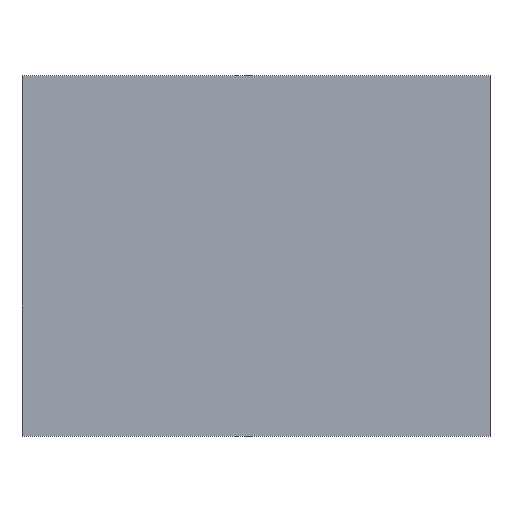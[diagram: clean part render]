
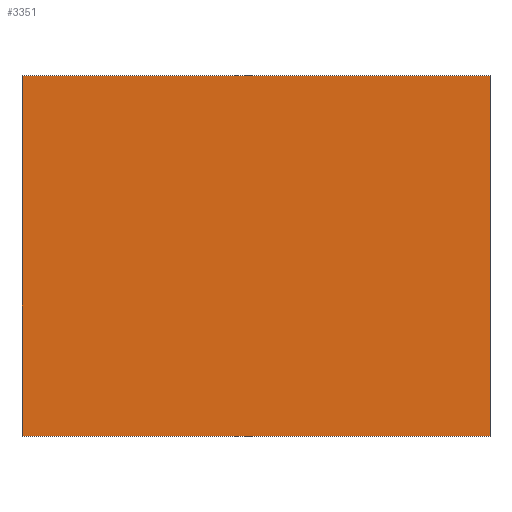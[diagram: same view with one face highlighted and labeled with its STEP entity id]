
A CAD part, top view. The second image highlights one B-rep face of the part: STEP entity #3351.
In plain terms, the highlighted planar face has unit normal (0, 0, 1).
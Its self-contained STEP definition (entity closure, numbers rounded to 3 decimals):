
#3215=CARTESIAN_POINT('Vertex',(109.,84.,38.)) ;
#3229=CARTESIAN_POINT('Vertex',(-109.,84.,38.)) ;
#3232=CARTESIAN_POINT('Line Origine',(0.,84.,38.)) ;
#3260=CARTESIAN_POINT('Vertex',(-109.,-84.,38.)) ;
#3263=CARTESIAN_POINT('Line Origine',(-109.,0.,38.)) ;
#3291=CARTESIAN_POINT('Vertex',(109.,-84.,38.)) ;
#3294=CARTESIAN_POINT('Line Origine',(0.,-84.,38.)) ;
#3316=CARTESIAN_POINT('Line Origine',(109.,0.,38.)) ;
#3340=CARTESIAN_POINT('Axis2P3D Location',(0.,0.,38.)) ;
#3233=DIRECTION('Vector Direction',(1.,0.,0.)) ;
#3264=DIRECTION('Vector Direction',(0.,1.,0.)) ;
#3295=DIRECTION('Vector Direction',(-1.,0.,0.)) ;
#3317=DIRECTION('Vector Direction',(0.,-1.,0.)) ;
#3341=DIRECTION('Axis2P3D Direction',(0.,0.,1.)) ;
#3342=DIRECTION('Axis2P3D XDirection',(1.,0.,0.)) ;
#3343=AXIS2_PLACEMENT_3D('Plane Axis2P3D',#3340,#3341,#3342) ;
#3346=ORIENTED_EDGE('',*,*,#3236,.T.) ;
#3347=ORIENTED_EDGE('',*,*,#3267,.T.) ;
#3348=ORIENTED_EDGE('',*,*,#3298,.T.) ;
#3349=ORIENTED_EDGE('',*,*,#3320,.T.) ;
#3234=VECTOR('Line Direction',#3233,1.) ;
#3265=VECTOR('Line Direction',#3264,1.) ;
#3296=VECTOR('Line Direction',#3295,1.) ;
#3318=VECTOR('Line Direction',#3317,1.) ;
#3351=ADVANCED_FACE('cavity',(#3350),#3344,.T.) ;
#3236=EDGE_CURVE('',#3216,#3230,#3235,.F.) ;
#3267=EDGE_CURVE('',#3230,#3261,#3266,.F.) ;
#3298=EDGE_CURVE('',#3261,#3292,#3297,.F.) ;
#3320=EDGE_CURVE('',#3292,#3216,#3319,.F.) ;
#3345=EDGE_LOOP('',(#3346,#3347,#3348,#3349)) ;
#3350=FACE_OUTER_BOUND('',#3345,.T.) ;
#3235=LINE('Line',#3232,#3234) ;
#3266=LINE('Line',#3263,#3265) ;
#3297=LINE('Line',#3294,#3296) ;
#3319=LINE('Line',#3316,#3318) ;
#3344=PLANE('Plane',#3343) ;
#3216=VERTEX_POINT('',#3215) ;
#3230=VERTEX_POINT('',#3229) ;
#3261=VERTEX_POINT('',#3260) ;
#3292=VERTEX_POINT('',#3291) ;
